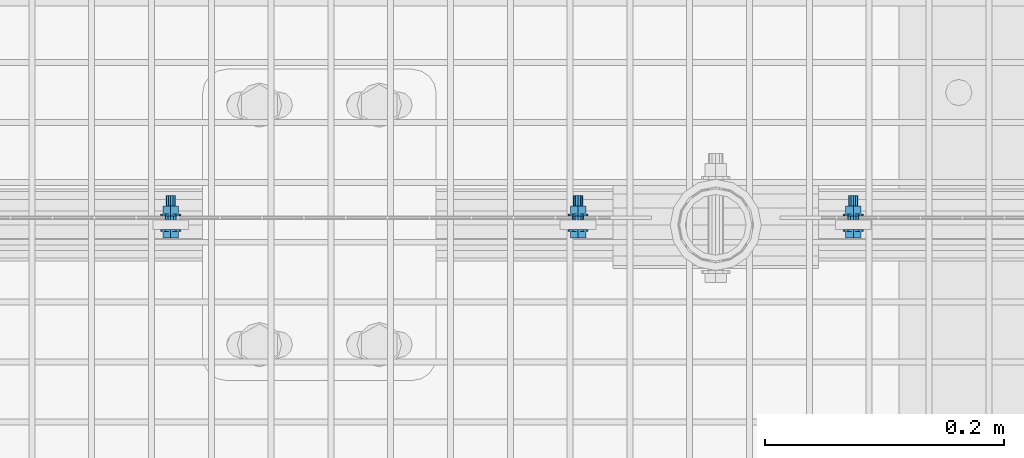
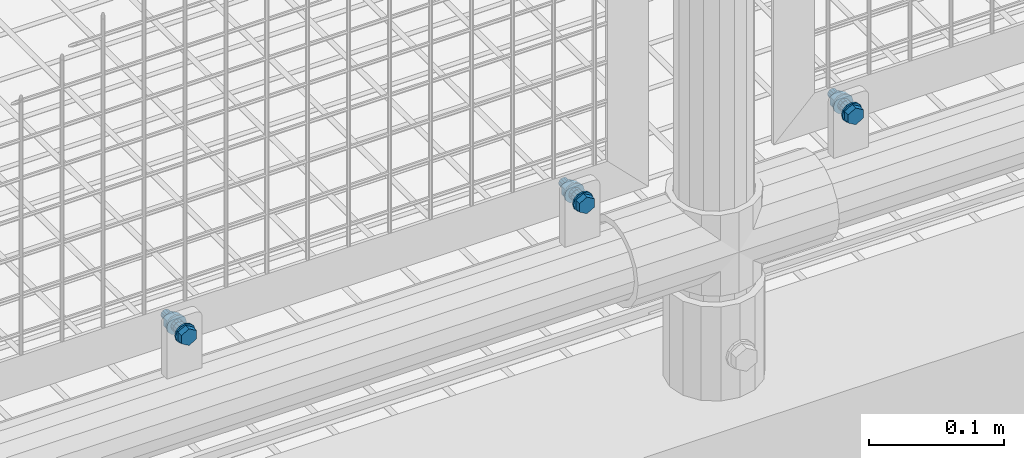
# One storey, part 78 of 1530: 3 mechanical fasteners.
"""IFC2X3 building model written with IfcOpenShell, lengths in millimetres."""

from ifc_helpers import new_model, si_unit, frame, origin_with_axes, place, context, subcontext, project, spatial, faceted_brep, source, transform, mapped, material, type_object, element, save


model = new_model("IFC2X3")

# Units and contexts
model_context = context("Model", 3, precision=1e-05, world=origin_with_axes())
body_context = subcontext(model_context, "Body", "Model", "MODEL_VIEW")
ifc_project = project(units=[si_unit("LENGTHUNIT", "METRE", prefix="MILLI"), si_unit("AREAUNIT", "SQUARE_METRE"), si_unit("VOLUMEUNIT", "CUBIC_METRE"), si_unit("MASSUNIT", "GRAM", prefix="KILO"), si_unit("TIMEUNIT", "SECOND"), si_unit("PLANEANGLEUNIT", "RADIAN"), si_unit("SOLIDANGLEUNIT", "STERADIAN"), si_unit("THERMODYNAMICTEMPERATUREUNIT", "DEGREE_CELSIUS"), si_unit("LUMINOUSINTENSITYUNIT", "LUMEN")], contexts=[model_context])

# Site, building, storey
site_placement = place(None, origin_with_axes())
site = spatial("IfcSite", under=ifc_project, at=site_placement, Name="Brattvåg", CompositionType="ELEMENT")
building_placement = place(site_placement, origin_with_axes())
building = spatial("IfcBuilding", under=site, at=building_placement, Name="Undefined", CompositionType="ELEMENT")
storey_placement = place(building_placement, origin_with_axes())
storey = spatial("IfcBuildingStorey", under=building, at=storey_placement, Name="Undefined", CompositionType="ELEMENT", Elevation=0.0)

# Mechanical fasteners
ifc_material = material(Name="8")
mechanical_fastener_type = type_object("IfcMechanicalFastenerType", Name="Bolt assembly")
shared_shape_1 = source(origin_with_axes(), body_context, "Body", "Brep", [
    faceted_brep([(7.50555349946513, -6.899000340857, 0.0), (3.75277674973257, -6.899000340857, 6.5), (-3.75277674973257, -6.899000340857, 6.5), (-7.50555349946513, -6.899000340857, 9.19165206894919e-16), (-3.75277674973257, -6.899000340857, -6.5), (3.75277674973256, -6.899000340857, -6.5), (3.75277674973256, -1.59900015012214, -6.5), (-3.75277674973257, -1.59900015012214, -6.5), (-7.50555349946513, -1.59900015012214, 9.19165206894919e-16), (-3.75277674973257, -1.59900015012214, 6.5), (3.75277674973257, -1.59900015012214, 6.5), (7.50555349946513, -1.59900015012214, 0.0), (4.0, -1.59900015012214, 0.0), (3.46410161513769, -1.59900015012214, 2.00000000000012), (1.99999999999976, -1.59900015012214, 3.46410161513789), (-4.14534392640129e-13, -1.59900015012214, 4.0), (-2.00000000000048, -1.59900015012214, 3.46410161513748), (-3.4641016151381, -1.59900015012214, 1.9999999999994), (-4.0, -1.59900015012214, -8.29068785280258e-13), (-3.46410161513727, -1.59900015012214, -2.00000000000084), (-1.99999999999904, -1.59900015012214, -3.46410161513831), (1.23916228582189e-12, -1.59900015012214, -4.0), (2.00000000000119, -1.59900015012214, -3.46410161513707), (3.46410161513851, -1.59900015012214, -1.99999999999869), (3.46410161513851, 28.4009998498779, -1.99999999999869), (2.00000000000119, 28.4009998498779, -3.46410161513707), (1.23916228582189e-12, 28.4009998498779, -4.0), (-1.99999999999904, 28.4009998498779, -3.46410161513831), (-3.46410161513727, 28.4009998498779, -2.00000000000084), (-4.0, 28.4009998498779, -8.29068785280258e-13), (-3.4641016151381, 28.4009998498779, 1.9999999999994), (-2.00000000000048, 28.4009998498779, 3.46410161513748), (-4.14534392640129e-13, 28.4009998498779, 4.0), (1.99999999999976, 28.4009998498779, 3.46410161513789), (3.46410161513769, 28.4009998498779, 2.00000000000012), (4.0, 28.4009998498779, 0.0), (8.5, -1.59900015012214, 0.0), (7.36121593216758, -1.59900015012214, 4.25000000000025), (4.24999999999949, -1.59900015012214, 7.36121593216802), (-8.80885584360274e-13, -1.59900015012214, 8.5), (-4.25000000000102, -1.59900015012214, 7.36121593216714), (-7.36121593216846, -1.59900015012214, 4.24999999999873), (-8.5, -1.59900015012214, -1.76177116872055e-12), (-7.3612159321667, -1.59900015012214, -4.25000000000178), (-4.24999999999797, -1.59900015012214, -7.3612159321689), (2.63321985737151e-12, -1.59900015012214, -8.5), (4.25000000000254, -1.59900015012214, -7.36121593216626), (7.36121593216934, -1.59900015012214, -4.24999999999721), (7.36121593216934, 0.000999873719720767, -4.24999999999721), (4.25000000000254, 0.000999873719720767, -7.36121593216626), (2.63321985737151e-12, 0.000999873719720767, -8.5), (-4.24999999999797, 0.000999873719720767, -7.3612159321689), (-7.3612159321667, 0.000999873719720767, -4.25000000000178), (-8.5, 0.000999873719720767, -1.76177116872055e-12), (-7.36121593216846, 0.000999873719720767, 4.24999999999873), (-4.25000000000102, 0.000999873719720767, 7.36121593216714), (-8.80885584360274e-13, 0.000999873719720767, 8.5), (4.24999999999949, 0.000999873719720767, 7.36121593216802), (7.36121593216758, 0.000999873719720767, 4.25000000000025), (8.5, 0.000999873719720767, 0.0), (8.5, 11.5044159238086, 0.0), (7.36121593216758, 11.5044159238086, 4.25000000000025), (4.24999999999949, 11.5044159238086, 7.36121593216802), (-8.80885584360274e-13, 11.5044159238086, 8.5), (-4.25000000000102, 11.5044159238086, 7.36121593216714), (-7.36121593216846, 11.5044159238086, 4.24999999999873), (-8.5, 11.5044159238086, -1.76177116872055e-12), (-7.3612159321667, 11.5044159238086, -4.25000000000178), (-4.24999999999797, 11.5044159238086, -7.3612159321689), (2.63321985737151e-12, 11.5044159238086, -8.5), (4.25000000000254, 11.5044159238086, -7.36121593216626), (7.36121593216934, 11.5044159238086, -4.24999999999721), (7.36121593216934, 13.1044159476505, -4.24999999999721), (4.25000000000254, 13.1044159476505, -7.36121593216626), (2.63321985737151e-12, 13.1044159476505, -8.5), (-4.24999999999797, 13.1044159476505, -7.3612159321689), (-7.3612159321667, 13.1044159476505, -4.25000000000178), (-8.5, 13.1044159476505, -1.76177116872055e-12), (-7.36121593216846, 13.1044159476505, 4.24999999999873), (-4.25000000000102, 13.1044159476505, 7.36121593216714), (-8.80885584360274e-13, 13.1044159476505, 8.5), (4.24999999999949, 13.1044159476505, 7.36121593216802), (7.36121593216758, 13.1044159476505, 4.25000000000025), (8.5, 13.1044159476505, 0.0), (7.50555349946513, 13.1044159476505, 0.0), (3.75277674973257, 13.1044159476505, 6.5), (-3.75277674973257, 13.1044159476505, 6.5), (-7.50555349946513, 13.1044159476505, 9.19165206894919e-16), (-3.75277674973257, 13.1044159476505, -6.5), (3.75277674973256, 13.1044159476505, -6.5), (3.75277674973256, 19.9044161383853, -6.5), (-3.75277674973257, 19.9044161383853, -6.5), (-7.50555349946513, 19.9044161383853, 9.19165206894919e-16), (-3.75277674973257, 19.9044161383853, 6.5), (3.75277674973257, 19.9044161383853, 6.5), (7.50555349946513, 19.9044161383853, 0.0)], [[[0, 1, 2, 3, 4, 5]], [[6, 7, 8, 9, 10, 11]], [[0, 11, 10, 1]], [[1, 10, 9, 2]], [[2, 9, 8, 3]], [[3, 8, 7, 4]], [[4, 7, 6, 5]], [[5, 6, 11, 0]], [[12, 13, 14, 15, 16, 17, 18, 19, 20, 21, 22, 23]], [[24, 25, 26, 27, 28, 29, 30, 31, 32, 33, 34, 35]], [[12, 35, 34, 13]], [[13, 34, 33, 14]], [[14, 33, 32, 15]], [[15, 32, 31, 16]], [[16, 31, 30, 17]], [[17, 30, 29, 18]], [[18, 29, 28, 19]], [[19, 28, 27, 20]], [[20, 27, 26, 21]], [[21, 26, 25, 22]], [[22, 25, 24, 23]], [[23, 24, 35, 12]], [[36, 37, 38, 39, 40, 41, 42, 43, 44, 45, 46, 47]], [[48, 49, 50, 51, 52, 53, 54, 55, 56, 57, 58, 59]], [[36, 59, 58, 37]], [[37, 58, 57, 38]], [[38, 57, 56, 39]], [[39, 56, 55, 40]], [[40, 55, 54, 41]], [[41, 54, 53, 42]], [[42, 53, 52, 43]], [[43, 52, 51, 44]], [[44, 51, 50, 45]], [[45, 50, 49, 46]], [[46, 49, 48, 47]], [[47, 48, 59, 36]], [[60, 61, 62, 63, 64, 65, 66, 67, 68, 69, 70, 71]], [[72, 73, 74, 75, 76, 77, 78, 79, 80, 81, 82, 83]], [[60, 83, 82, 61]], [[61, 82, 81, 62]], [[62, 81, 80, 63]], [[63, 80, 79, 64]], [[64, 79, 78, 65]], [[65, 78, 77, 66]], [[66, 77, 76, 67]], [[67, 76, 75, 68]], [[68, 75, 74, 69]], [[69, 74, 73, 70]], [[70, 73, 72, 71]], [[71, 72, 83, 60]], [[84, 85, 86, 87, 88, 89]], [[90, 91, 92, 93, 94, 95]], [[84, 95, 94, 85]], [[85, 94, 93, 86]], [[86, 93, 92, 87]], [[87, 92, 91, 88]], [[88, 91, 90, 89]], [[89, 90, 95, 84]]]),
    faceted_brep([(5.0, 0.100999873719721, 0.0), (4.33012701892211, 0.100999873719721, 2.50000000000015), (2.4999999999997, 0.100999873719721, 4.33012701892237), (-5.18167990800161e-13, 0.100999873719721, 5.0), (-2.5000000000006, 0.100999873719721, 4.33012701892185), (-4.33012701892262, 0.100999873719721, 2.49999999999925), (-5.0, 0.100999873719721, -1.03633598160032e-12), (-4.33012701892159, 0.100999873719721, -2.50000000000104), (-2.49999999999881, 0.100999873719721, -4.33012701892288), (1.54895285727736e-12, 0.100999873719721, -5.0), (2.50000000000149, 0.100999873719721, -4.33012701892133), (4.33012701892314, 0.100999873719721, -2.49999999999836), (4.33012701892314, 8.10099988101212, -2.49999999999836), (2.50000000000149, 8.10099988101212, -4.33012701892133), (1.54895285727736e-12, 8.10099988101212, -5.0), (-2.49999999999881, 8.10099988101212, -4.33012701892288), (-4.33012701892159, 8.10099988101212, -2.50000000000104), (-5.0, 8.10099988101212, -1.03633598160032e-12), (-4.33012701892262, 8.10099988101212, 2.49999999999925), (-2.5000000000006, 8.10099988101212, 4.33012701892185), (-5.18167990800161e-13, 8.10099988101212, 5.0), (2.4999999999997, 8.10099988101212, 4.33012701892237), (4.33012701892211, 8.10099988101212, 2.50000000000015), (5.0, 8.10099988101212, 0.0), (5.0, 8.40441592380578, 0.0), (4.33012701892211, 8.40441592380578, 2.50000000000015), (2.4999999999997, 8.40441592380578, 4.33012701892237), (-5.18167990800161e-13, 8.40441592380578, 5.0), (-2.5000000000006, 8.40441592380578, 4.33012701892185), (-4.33012701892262, 8.40441592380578, 2.49999999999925), (-5.0, 8.40441592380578, -1.03633598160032e-12), (-4.33012701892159, 8.40441592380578, -2.50000000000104), (-2.49999999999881, 8.40441592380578, -4.33012701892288), (1.54895285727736e-12, 8.40441592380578, -5.0), (2.50000000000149, 8.40441592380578, -4.33012701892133), (4.33012701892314, 8.40441592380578, -2.49999999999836), (4.33012701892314, 11.5044159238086, -2.49999999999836), (2.50000000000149, 11.5044159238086, -4.33012701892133), (1.54895285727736e-12, 11.5044159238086, -5.0), (-2.49999999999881, 11.5044159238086, -4.33012701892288), (-4.33012701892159, 11.5044159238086, -2.50000000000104), (-5.0, 11.5044159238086, -1.03633598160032e-12), (-4.33012701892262, 11.5044159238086, 2.49999999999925), (-2.5000000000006, 11.5044159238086, 4.33012701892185), (-5.18167990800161e-13, 11.5044159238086, 5.0), (2.4999999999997, 11.5044159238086, 4.33012701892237), (4.33012701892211, 11.5044159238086, 2.50000000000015), (5.0, 11.5044159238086, 0.0)], [[[0, 1, 2, 3, 4, 5, 6, 7, 8, 9, 10, 11]], [[12, 13, 14, 15, 16, 17, 18, 19, 20, 21, 22, 23]], [[0, 23, 22, 1]], [[1, 22, 21, 2]], [[2, 21, 20, 3]], [[3, 20, 19, 4]], [[4, 19, 18, 5]], [[5, 18, 17, 6]], [[6, 17, 16, 7]], [[7, 16, 15, 8]], [[8, 15, 14, 9]], [[9, 14, 13, 10]], [[10, 13, 12, 11]], [[11, 12, 23, 0]], [[24, 25, 26, 27, 28, 29, 30, 31, 32, 33, 34, 35]], [[36, 37, 38, 39, 40, 41, 42, 43, 44, 45, 46, 47]], [[24, 47, 46, 25]], [[25, 46, 45, 26]], [[26, 45, 44, 27]], [[27, 44, 43, 28]], [[28, 43, 42, 29]], [[29, 42, 41, 30]], [[30, 41, 40, 31]], [[31, 40, 39, 32]], [[32, 39, 38, 33]], [[33, 38, 37, 34]], [[34, 37, 36, 35]], [[35, 36, 47, 24]]]),
])
mechanical_fastener_1_placement = place(storey_placement, frame((3935.85060882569, 7660.49843978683, 352.299672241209), z_axis=(-1.0, 1.99999855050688e-09, 0.0), x_axis=(0.0, 0.0, 1.0)))
element("IfcMechanicalFastener", 1, at=mechanical_fastener_1_placement, inside=storey, type_object=mechanical_fastener_type, material=ifc_material, Name="Bolt assembly", NominalDiameter=8.0, NominalLength=30.0, context=body_context, shape_type="MappedRepresentation", body=[
    mapped(shared_shape_1, transform((0.0, 0.0, 0.0))),
])
shared_shape_2 = source(origin_with_axes(), body_context, "Body", "Brep", [
    faceted_brep([(7.50555349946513, -6.899000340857, 0.0), (3.75277674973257, -6.899000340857, 6.5), (-3.75277674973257, -6.899000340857, 6.5), (-7.50555349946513, -6.899000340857, 9.19165206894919e-16), (-3.75277674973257, -6.899000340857, -6.5), (3.75277674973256, -6.899000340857, -6.5), (3.75277674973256, -1.59900015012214, -6.5), (-3.75277674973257, -1.59900015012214, -6.5), (-7.50555349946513, -1.59900015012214, 9.19165206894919e-16), (-3.75277674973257, -1.59900015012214, 6.5), (3.75277674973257, -1.59900015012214, 6.5), (7.50555349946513, -1.59900015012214, 0.0), (4.0, -1.59900015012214, 0.0), (3.46410161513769, -1.59900015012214, 2.00000000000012), (1.99999999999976, -1.59900015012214, 3.46410161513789), (-4.14534392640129e-13, -1.59900015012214, 4.0), (-2.00000000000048, -1.59900015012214, 3.46410161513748), (-3.4641016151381, -1.59900015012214, 1.9999999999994), (-4.0, -1.59900015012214, -8.29068785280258e-13), (-3.46410161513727, -1.59900015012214, -2.00000000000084), (-1.99999999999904, -1.59900015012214, -3.46410161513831), (1.23916228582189e-12, -1.59900015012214, -4.0), (2.00000000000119, -1.59900015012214, -3.46410161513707), (3.46410161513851, -1.59900015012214, -1.99999999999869), (3.46410161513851, 28.4009998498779, -1.99999999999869), (2.00000000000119, 28.4009998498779, -3.46410161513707), (1.23916228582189e-12, 28.4009998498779, -4.0), (-1.99999999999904, 28.4009998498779, -3.46410161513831), (-3.46410161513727, 28.4009998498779, -2.00000000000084), (-4.0, 28.4009998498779, -8.29068785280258e-13), (-3.4641016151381, 28.4009998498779, 1.9999999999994), (-2.00000000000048, 28.4009998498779, 3.46410161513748), (-4.14534392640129e-13, 28.4009998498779, 4.0), (1.99999999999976, 28.4009998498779, 3.46410161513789), (3.46410161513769, 28.4009998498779, 2.00000000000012), (4.0, 28.4009998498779, 0.0), (8.5, -1.59900015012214, 0.0), (7.36121593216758, -1.59900015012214, 4.25000000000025), (4.24999999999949, -1.59900015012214, 7.36121593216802), (-8.80885584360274e-13, -1.59900015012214, 8.5), (-4.25000000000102, -1.59900015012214, 7.36121593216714), (-7.36121593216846, -1.59900015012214, 4.24999999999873), (-8.5, -1.59900015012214, -1.76177116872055e-12), (-7.3612159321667, -1.59900015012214, -4.25000000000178), (-4.24999999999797, -1.59900015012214, -7.3612159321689), (2.63321985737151e-12, -1.59900015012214, -8.5), (4.25000000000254, -1.59900015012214, -7.36121593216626), (7.36121593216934, -1.59900015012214, -4.24999999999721), (7.36121593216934, 0.000999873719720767, -4.24999999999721), (4.25000000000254, 0.000999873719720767, -7.36121593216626), (2.63321985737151e-12, 0.000999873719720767, -8.5), (-4.24999999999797, 0.000999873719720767, -7.3612159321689), (-7.3612159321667, 0.000999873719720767, -4.25000000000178), (-8.5, 0.000999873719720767, -1.76177116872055e-12), (-7.36121593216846, 0.000999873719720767, 4.24999999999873), (-4.25000000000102, 0.000999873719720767, 7.36121593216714), (-8.80885584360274e-13, 0.000999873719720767, 8.5), (4.24999999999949, 0.000999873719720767, 7.36121593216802), (7.36121593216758, 0.000999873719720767, 4.25000000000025), (8.5, 0.000999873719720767, 0.0), (8.5, 11.5030995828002, 0.0), (7.36121593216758, 11.5030995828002, 4.25000000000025), (4.24999999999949, 11.5030995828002, 7.36121593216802), (-8.80885584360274e-13, 11.5030995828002, 8.5), (-4.25000000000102, 11.5030995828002, 7.36121593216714), (-7.36121593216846, 11.5030995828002, 4.24999999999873), (-8.5, 11.5030995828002, -1.76177116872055e-12), (-7.3612159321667, 11.5030995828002, -4.25000000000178), (-4.24999999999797, 11.5030995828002, -7.3612159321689), (2.63321985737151e-12, 11.5030995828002, -8.5), (4.25000000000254, 11.5030995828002, -7.36121593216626), (7.36121593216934, 11.5030995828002, -4.24999999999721), (7.36121593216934, 13.1030996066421, -4.24999999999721), (4.25000000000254, 13.1030996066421, -7.36121593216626), (2.63321985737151e-12, 13.1030996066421, -8.5), (-4.24999999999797, 13.1030996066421, -7.3612159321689), (-7.3612159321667, 13.1030996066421, -4.25000000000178), (-8.5, 13.1030996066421, -1.76177116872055e-12), (-7.36121593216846, 13.1030996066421, 4.24999999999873), (-4.25000000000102, 13.1030996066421, 7.36121593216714), (-8.80885584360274e-13, 13.1030996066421, 8.5), (4.24999999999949, 13.1030996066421, 7.36121593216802), (7.36121593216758, 13.1030996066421, 4.25000000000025), (8.5, 13.1030996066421, 0.0), (7.50555349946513, 13.1030996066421, 0.0), (3.75277674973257, 13.1030996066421, 6.5), (-3.75277674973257, 13.1030996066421, 6.5), (-7.50555349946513, 13.1030996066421, 9.19165206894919e-16), (-3.75277674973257, 13.1030996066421, -6.5), (3.75277674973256, 13.1030996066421, -6.5), (3.75277674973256, 19.9030997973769, -6.5), (-3.75277674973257, 19.9030997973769, -6.5), (-7.50555349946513, 19.9030997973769, 9.19165206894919e-16), (-3.75277674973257, 19.9030997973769, 6.5), (3.75277674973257, 19.9030997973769, 6.5), (7.50555349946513, 19.9030997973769, 0.0)], [[[0, 1, 2, 3, 4, 5]], [[6, 7, 8, 9, 10, 11]], [[0, 11, 10, 1]], [[1, 10, 9, 2]], [[2, 9, 8, 3]], [[3, 8, 7, 4]], [[4, 7, 6, 5]], [[5, 6, 11, 0]], [[12, 13, 14, 15, 16, 17, 18, 19, 20, 21, 22, 23]], [[24, 25, 26, 27, 28, 29, 30, 31, 32, 33, 34, 35]], [[12, 35, 34, 13]], [[13, 34, 33, 14]], [[14, 33, 32, 15]], [[15, 32, 31, 16]], [[16, 31, 30, 17]], [[17, 30, 29, 18]], [[18, 29, 28, 19]], [[19, 28, 27, 20]], [[20, 27, 26, 21]], [[21, 26, 25, 22]], [[22, 25, 24, 23]], [[23, 24, 35, 12]], [[36, 37, 38, 39, 40, 41, 42, 43, 44, 45, 46, 47]], [[48, 49, 50, 51, 52, 53, 54, 55, 56, 57, 58, 59]], [[36, 59, 58, 37]], [[37, 58, 57, 38]], [[38, 57, 56, 39]], [[39, 56, 55, 40]], [[40, 55, 54, 41]], [[41, 54, 53, 42]], [[42, 53, 52, 43]], [[43, 52, 51, 44]], [[44, 51, 50, 45]], [[45, 50, 49, 46]], [[46, 49, 48, 47]], [[47, 48, 59, 36]], [[60, 61, 62, 63, 64, 65, 66, 67, 68, 69, 70, 71]], [[72, 73, 74, 75, 76, 77, 78, 79, 80, 81, 82, 83]], [[60, 83, 82, 61]], [[61, 82, 81, 62]], [[62, 81, 80, 63]], [[63, 80, 79, 64]], [[64, 79, 78, 65]], [[65, 78, 77, 66]], [[66, 77, 76, 67]], [[67, 76, 75, 68]], [[68, 75, 74, 69]], [[69, 74, 73, 70]], [[70, 73, 72, 71]], [[71, 72, 83, 60]], [[84, 85, 86, 87, 88, 89]], [[90, 91, 92, 93, 94, 95]], [[84, 95, 94, 85]], [[85, 94, 93, 86]], [[86, 93, 92, 87]], [[87, 92, 91, 88]], [[88, 91, 90, 89]], [[89, 90, 95, 84]]]),
    faceted_brep([(5.0, 0.100999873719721, 0.0), (4.33012701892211, 0.100999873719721, 2.50000000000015), (2.4999999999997, 0.100999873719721, 4.33012701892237), (-5.18167990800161e-13, 0.100999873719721, 5.0), (-2.5000000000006, 0.100999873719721, 4.33012701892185), (-4.33012701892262, 0.100999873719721, 2.49999999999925), (-5.0, 0.100999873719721, -1.03633598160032e-12), (-4.33012701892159, 0.100999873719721, -2.50000000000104), (-2.49999999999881, 0.100999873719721, -4.33012701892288), (1.54895285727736e-12, 0.100999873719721, -5.0), (2.50000000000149, 0.100999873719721, -4.33012701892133), (4.33012701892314, 0.100999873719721, -2.49999999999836), (4.33012701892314, 8.10099988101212, -2.49999999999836), (2.50000000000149, 8.10099988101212, -4.33012701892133), (1.54895285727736e-12, 8.10099988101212, -5.0), (-2.49999999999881, 8.10099988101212, -4.33012701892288), (-4.33012701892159, 8.10099988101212, -2.50000000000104), (-5.0, 8.10099988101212, -1.03633598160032e-12), (-4.33012701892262, 8.10099988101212, 2.49999999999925), (-2.5000000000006, 8.10099988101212, 4.33012701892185), (-5.18167990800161e-13, 8.10099988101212, 5.0), (2.4999999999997, 8.10099988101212, 4.33012701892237), (4.33012701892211, 8.10099988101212, 2.50000000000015), (5.0, 8.10099988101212, 0.0), (5.0, 8.40309958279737, 0.0), (4.33012701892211, 8.40309958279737, 2.50000000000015), (2.4999999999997, 8.40309958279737, 4.33012701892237), (-5.18167990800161e-13, 8.40309958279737, 5.0), (-2.5000000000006, 8.40309958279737, 4.33012701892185), (-4.33012701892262, 8.40309958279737, 2.49999999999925), (-5.0, 8.40309958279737, -1.03633598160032e-12), (-4.33012701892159, 8.40309958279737, -2.50000000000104), (-2.49999999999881, 8.40309958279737, -4.33012701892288), (1.54895285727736e-12, 8.40309958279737, -5.0), (2.50000000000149, 8.40309958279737, -4.33012701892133), (4.33012701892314, 8.40309958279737, -2.49999999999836), (4.33012701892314, 11.5030995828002, -2.49999999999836), (2.50000000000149, 11.5030995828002, -4.33012701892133), (1.54895285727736e-12, 11.5030995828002, -5.0), (-2.49999999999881, 11.5030995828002, -4.33012701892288), (-4.33012701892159, 11.5030995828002, -2.50000000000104), (-5.0, 11.5030995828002, -1.03633598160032e-12), (-4.33012701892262, 11.5030995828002, 2.49999999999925), (-2.5000000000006, 11.5030995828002, 4.33012701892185), (-5.18167990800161e-13, 11.5030995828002, 5.0), (2.4999999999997, 11.5030995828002, 4.33012701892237), (4.33012701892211, 11.5030995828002, 2.50000000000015), (5.0, 11.5030995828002, 0.0)], [[[0, 1, 2, 3, 4, 5, 6, 7, 8, 9, 10, 11]], [[12, 13, 14, 15, 16, 17, 18, 19, 20, 21, 22, 23]], [[0, 23, 22, 1]], [[1, 22, 21, 2]], [[2, 21, 20, 3]], [[3, 20, 19, 4]], [[4, 19, 18, 5]], [[5, 18, 17, 6]], [[6, 17, 16, 7]], [[7, 16, 15, 8]], [[8, 15, 14, 9]], [[9, 14, 13, 10]], [[10, 13, 12, 11]], [[11, 12, 23, 0]], [[24, 25, 26, 27, 28, 29, 30, 31, 32, 33, 34, 35]], [[36, 37, 38, 39, 40, 41, 42, 43, 44, 45, 46, 47]], [[24, 47, 46, 25]], [[25, 46, 45, 26]], [[26, 45, 44, 27]], [[27, 44, 43, 28]], [[28, 43, 42, 29]], [[29, 42, 41, 30]], [[30, 41, 40, 31]], [[31, 40, 39, 32]], [[32, 39, 38, 33]], [[33, 38, 37, 34]], [[34, 37, 36, 35]], [[35, 36, 47, 24]]]),
])
mechanical_fastener_2_placement = place(storey_placement, frame((3365.8512954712, 7660.49843978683, 352.299672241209), z_axis=(-1.0, 1.99999855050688e-09, 0.0), x_axis=(0.0, 0.0, 1.0)))
element("IfcMechanicalFastener", 2, at=mechanical_fastener_2_placement, inside=storey, type_object=mechanical_fastener_type, material=ifc_material, Name="Bolt assembly", NominalDiameter=8.0, NominalLength=30.0, context=body_context, shape_type="MappedRepresentation", body=[
    mapped(shared_shape_2, transform((0.0, 0.0, 0.0))),
])
shared_shape_3 = source(origin_with_axes(), body_context, "Body", "Brep", [
    faceted_brep([(7.50555349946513, -6.899000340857, 0.0), (3.75277674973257, -6.899000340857, 6.5), (-3.75277674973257, -6.899000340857, 6.5), (-7.50555349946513, -6.899000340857, 9.19165206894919e-16), (-3.75277674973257, -6.899000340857, -6.5), (3.75277674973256, -6.899000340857, -6.5), (3.75277674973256, -1.59900015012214, -6.5), (-3.75277674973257, -1.59900015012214, -6.5), (-7.50555349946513, -1.59900015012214, 9.19165206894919e-16), (-3.75277674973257, -1.59900015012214, 6.5), (3.75277674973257, -1.59900015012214, 6.5), (7.50555349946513, -1.59900015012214, 0.0), (4.0, -1.59900015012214, 0.0), (3.46410161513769, -1.59900015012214, 2.00000000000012), (1.99999999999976, -1.59900015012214, 3.46410161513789), (-4.14534392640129e-13, -1.59900015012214, 4.0), (-2.00000000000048, -1.59900015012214, 3.46410161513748), (-3.4641016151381, -1.59900015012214, 1.9999999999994), (-4.0, -1.59900015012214, -8.29068785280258e-13), (-3.46410161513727, -1.59900015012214, -2.00000000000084), (-1.99999999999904, -1.59900015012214, -3.46410161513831), (1.23916228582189e-12, -1.59900015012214, -4.0), (2.00000000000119, -1.59900015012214, -3.46410161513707), (3.46410161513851, -1.59900015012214, -1.99999999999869), (3.46410161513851, 28.4009998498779, -1.99999999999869), (2.00000000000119, 28.4009998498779, -3.46410161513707), (1.23916228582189e-12, 28.4009998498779, -4.0), (-1.99999999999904, 28.4009998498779, -3.46410161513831), (-3.46410161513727, 28.4009998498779, -2.00000000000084), (-4.0, 28.4009998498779, -8.29068785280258e-13), (-3.4641016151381, 28.4009998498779, 1.9999999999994), (-2.00000000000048, 28.4009998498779, 3.46410161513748), (-4.14534392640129e-13, 28.4009998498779, 4.0), (1.99999999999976, 28.4009998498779, 3.46410161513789), (3.46410161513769, 28.4009998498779, 2.00000000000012), (4.0, 28.4009998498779, 0.0), (8.5, -1.59900015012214, 0.0), (7.36121593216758, -1.59900015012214, 4.25000000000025), (4.24999999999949, -1.59900015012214, 7.36121593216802), (-8.80885584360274e-13, -1.59900015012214, 8.5), (-4.25000000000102, -1.59900015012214, 7.36121593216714), (-7.36121593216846, -1.59900015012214, 4.24999999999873), (-8.5, -1.59900015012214, -1.76177116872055e-12), (-7.3612159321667, -1.59900015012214, -4.25000000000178), (-4.24999999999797, -1.59900015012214, -7.3612159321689), (2.63321985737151e-12, -1.59900015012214, -8.5), (4.25000000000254, -1.59900015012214, -7.36121593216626), (7.36121593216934, -1.59900015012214, -4.24999999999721), (7.36121593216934, 0.000999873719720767, -4.24999999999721), (4.25000000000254, 0.000999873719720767, -7.36121593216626), (2.63321985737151e-12, 0.000999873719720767, -8.5), (-4.24999999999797, 0.000999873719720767, -7.3612159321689), (-7.3612159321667, 0.000999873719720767, -4.25000000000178), (-8.5, 0.000999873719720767, -1.76177116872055e-12), (-7.36121593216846, 0.000999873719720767, 4.24999999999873), (-4.25000000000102, 0.000999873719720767, 7.36121593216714), (-8.80885584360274e-13, 0.000999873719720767, 8.5), (4.24999999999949, 0.000999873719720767, 7.36121593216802), (7.36121593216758, 0.000999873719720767, 4.25000000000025), (8.5, 0.000999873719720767, 0.0), (8.5, 11.5022147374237, 0.0), (7.36121593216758, 11.5022147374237, 4.25000000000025), (4.24999999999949, 11.5022147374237, 7.36121593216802), (-8.80885584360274e-13, 11.5022147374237, 8.5), (-4.25000000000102, 11.5022147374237, 7.36121593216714), (-7.36121593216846, 11.5022147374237, 4.24999999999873), (-8.5, 11.5022147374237, -1.76177116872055e-12), (-7.3612159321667, 11.5022147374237, -4.25000000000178), (-4.24999999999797, 11.5022147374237, -7.3612159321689), (2.63321985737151e-12, 11.5022147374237, -8.5), (4.25000000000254, 11.5022147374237, -7.36121593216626), (7.36121593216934, 11.5022147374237, -4.24999999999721), (7.36121593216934, 13.1022147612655, -4.24999999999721), (4.25000000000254, 13.1022147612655, -7.36121593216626), (2.63321985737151e-12, 13.1022147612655, -8.5), (-4.24999999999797, 13.1022147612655, -7.3612159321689), (-7.3612159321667, 13.1022147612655, -4.25000000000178), (-8.5, 13.1022147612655, -1.76177116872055e-12), (-7.36121593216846, 13.1022147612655, 4.24999999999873), (-4.25000000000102, 13.1022147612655, 7.36121593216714), (-8.80885584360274e-13, 13.1022147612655, 8.5), (4.24999999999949, 13.1022147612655, 7.36121593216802), (7.36121593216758, 13.1022147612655, 4.25000000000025), (8.5, 13.1022147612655, 0.0), (7.50555349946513, 13.1022147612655, 0.0), (3.75277674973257, 13.1022147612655, 6.5), (-3.75277674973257, 13.1022147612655, 6.5), (-7.50555349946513, 13.1022147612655, 9.19165206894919e-16), (-3.75277674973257, 13.1022147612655, -6.5), (3.75277674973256, 13.1022147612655, -6.5), (3.75277674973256, 19.9022149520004, -6.5), (-3.75277674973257, 19.9022149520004, -6.5), (-7.50555349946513, 19.9022149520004, 9.19165206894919e-16), (-3.75277674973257, 19.9022149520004, 6.5), (3.75277674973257, 19.9022149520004, 6.5), (7.50555349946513, 19.9022149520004, 0.0)], [[[0, 1, 2, 3, 4, 5]], [[6, 7, 8, 9, 10, 11]], [[0, 11, 10, 1]], [[1, 10, 9, 2]], [[2, 9, 8, 3]], [[3, 8, 7, 4]], [[4, 7, 6, 5]], [[5, 6, 11, 0]], [[12, 13, 14, 15, 16, 17, 18, 19, 20, 21, 22, 23]], [[24, 25, 26, 27, 28, 29, 30, 31, 32, 33, 34, 35]], [[12, 35, 34, 13]], [[13, 34, 33, 14]], [[14, 33, 32, 15]], [[15, 32, 31, 16]], [[16, 31, 30, 17]], [[17, 30, 29, 18]], [[18, 29, 28, 19]], [[19, 28, 27, 20]], [[20, 27, 26, 21]], [[21, 26, 25, 22]], [[22, 25, 24, 23]], [[23, 24, 35, 12]], [[36, 37, 38, 39, 40, 41, 42, 43, 44, 45, 46, 47]], [[48, 49, 50, 51, 52, 53, 54, 55, 56, 57, 58, 59]], [[36, 59, 58, 37]], [[37, 58, 57, 38]], [[38, 57, 56, 39]], [[39, 56, 55, 40]], [[40, 55, 54, 41]], [[41, 54, 53, 42]], [[42, 53, 52, 43]], [[43, 52, 51, 44]], [[44, 51, 50, 45]], [[45, 50, 49, 46]], [[46, 49, 48, 47]], [[47, 48, 59, 36]], [[60, 61, 62, 63, 64, 65, 66, 67, 68, 69, 70, 71]], [[72, 73, 74, 75, 76, 77, 78, 79, 80, 81, 82, 83]], [[60, 83, 82, 61]], [[61, 82, 81, 62]], [[62, 81, 80, 63]], [[63, 80, 79, 64]], [[64, 79, 78, 65]], [[65, 78, 77, 66]], [[66, 77, 76, 67]], [[67, 76, 75, 68]], [[68, 75, 74, 69]], [[69, 74, 73, 70]], [[70, 73, 72, 71]], [[71, 72, 83, 60]], [[84, 85, 86, 87, 88, 89]], [[90, 91, 92, 93, 94, 95]], [[84, 95, 94, 85]], [[85, 94, 93, 86]], [[86, 93, 92, 87]], [[87, 92, 91, 88]], [[88, 91, 90, 89]], [[89, 90, 95, 84]]]),
    faceted_brep([(5.0, 0.100999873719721, 0.0), (4.33012701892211, 0.100999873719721, 2.50000000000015), (2.4999999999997, 0.100999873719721, 4.33012701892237), (-5.18167990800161e-13, 0.100999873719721, 5.0), (-2.5000000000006, 0.100999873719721, 4.33012701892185), (-4.33012701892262, 0.100999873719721, 2.49999999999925), (-5.0, 0.100999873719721, -1.03633598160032e-12), (-4.33012701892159, 0.100999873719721, -2.50000000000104), (-2.49999999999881, 0.100999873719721, -4.33012701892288), (1.54895285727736e-12, 0.100999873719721, -5.0), (2.50000000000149, 0.100999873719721, -4.33012701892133), (4.33012701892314, 0.100999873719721, -2.49999999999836), (4.33012701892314, 8.10099988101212, -2.49999999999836), (2.50000000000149, 8.10099988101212, -4.33012701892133), (1.54895285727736e-12, 8.10099988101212, -5.0), (-2.49999999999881, 8.10099988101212, -4.33012701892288), (-4.33012701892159, 8.10099988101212, -2.50000000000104), (-5.0, 8.10099988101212, -1.03633598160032e-12), (-4.33012701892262, 8.10099988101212, 2.49999999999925), (-2.5000000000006, 8.10099988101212, 4.33012701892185), (-5.18167990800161e-13, 8.10099988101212, 5.0), (2.4999999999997, 8.10099988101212, 4.33012701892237), (4.33012701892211, 8.10099988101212, 2.50000000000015), (5.0, 8.10099988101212, 0.0), (5.0, 8.40221473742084, 0.0), (4.33012701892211, 8.40221473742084, 2.50000000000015), (2.4999999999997, 8.40221473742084, 4.33012701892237), (-5.18167990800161e-13, 8.40221473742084, 5.0), (-2.5000000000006, 8.40221473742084, 4.33012701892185), (-4.33012701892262, 8.40221473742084, 2.49999999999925), (-5.0, 8.40221473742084, -1.03633598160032e-12), (-4.33012701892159, 8.40221473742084, -2.50000000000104), (-2.49999999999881, 8.40221473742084, -4.33012701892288), (1.54895285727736e-12, 8.40221473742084, -5.0), (2.50000000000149, 8.40221473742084, -4.33012701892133), (4.33012701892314, 8.40221473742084, -2.49999999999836), (4.33012701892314, 11.5022147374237, -2.49999999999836), (2.50000000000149, 11.5022147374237, -4.33012701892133), (1.54895285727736e-12, 11.5022147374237, -5.0), (-2.49999999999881, 11.5022147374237, -4.33012701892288), (-4.33012701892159, 11.5022147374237, -2.50000000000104), (-5.0, 11.5022147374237, -1.03633598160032e-12), (-4.33012701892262, 11.5022147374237, 2.49999999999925), (-2.5000000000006, 11.5022147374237, 4.33012701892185), (-5.18167990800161e-13, 11.5022147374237, 5.0), (2.4999999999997, 11.5022147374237, 4.33012701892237), (4.33012701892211, 11.5022147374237, 2.50000000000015), (5.0, 11.5022147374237, 0.0)], [[[0, 1, 2, 3, 4, 5, 6, 7, 8, 9, 10, 11]], [[12, 13, 14, 15, 16, 17, 18, 19, 20, 21, 22, 23]], [[0, 23, 22, 1]], [[1, 22, 21, 2]], [[2, 21, 20, 3]], [[3, 20, 19, 4]], [[4, 19, 18, 5]], [[5, 18, 17, 6]], [[6, 17, 16, 7]], [[7, 16, 15, 8]], [[8, 15, 14, 9]], [[9, 14, 13, 10]], [[10, 13, 12, 11]], [[11, 12, 23, 0]], [[24, 25, 26, 27, 28, 29, 30, 31, 32, 33, 34, 35]], [[36, 37, 38, 39, 40, 41, 42, 43, 44, 45, 46, 47]], [[24, 47, 46, 25]], [[25, 46, 45, 26]], [[26, 45, 44, 27]], [[27, 44, 43, 28]], [[28, 43, 42, 29]], [[29, 42, 41, 30]], [[30, 41, 40, 31]], [[31, 40, 39, 32]], [[32, 39, 38, 33]], [[33, 38, 37, 34]], [[34, 37, 36, 35]], [[35, 36, 47, 24]]]),
])
mechanical_fastener_3_placement = place(storey_placement, frame((3705.99974822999, 7660.49888992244, 352.300205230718), z_axis=(-1.0, 1.99999855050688e-09, 0.0), x_axis=(0.0, 0.0, 1.0)))
element("IfcMechanicalFastener", 3, at=mechanical_fastener_3_placement, inside=storey, type_object=mechanical_fastener_type, material=ifc_material, Name="Bolt assembly", NominalDiameter=8.0, NominalLength=30.0, context=body_context, shape_type="MappedRepresentation", body=[
    mapped(shared_shape_3, transform((0.0, 0.0, 0.0))),
])

save(model, "model.ifc")
